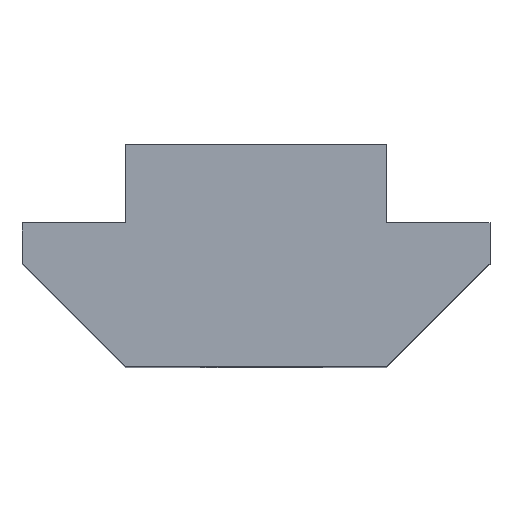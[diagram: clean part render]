
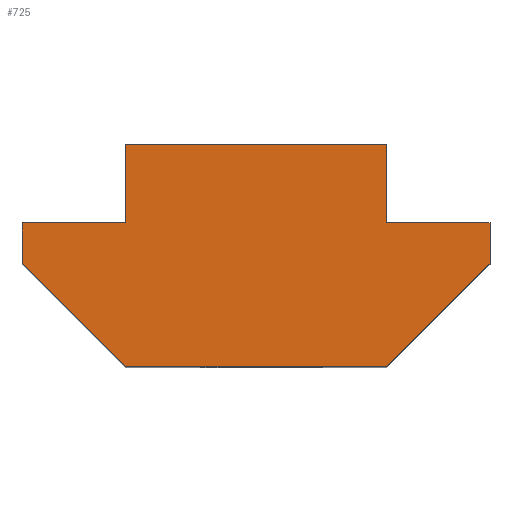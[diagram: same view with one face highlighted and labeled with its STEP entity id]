
A CAD part, top view. The second image highlights one B-rep face of the part: STEP entity #725.
In plain terms, the highlighted planar face has unit normal (0, 0, 1).
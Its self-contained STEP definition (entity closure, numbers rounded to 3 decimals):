
#27=PLANE('',#780);
#67=FACE_OUTER_BOUND('',#107,.T.);
#107=EDGE_LOOP('',(#645,#646,#647,#648,#649,#650,#651,#652,#653,#654));
#189=LINE('',#2672,#241);
#192=LINE('',#2679,#244);
#196=LINE('',#2686,#248);
#199=LINE('',#2692,#251);
#202=LINE('',#2698,#254);
#205=LINE('',#2704,#257);
#208=LINE('',#2710,#260);
#211=LINE('',#2716,#263);
#214=LINE('',#2722,#266);
#216=LINE('',#2725,#268);
#241=VECTOR('',#866,1000.);
#244=VECTOR('',#873,1000.);
#248=VECTOR('',#879,1000.);
#251=VECTOR('',#884,1000.);
#254=VECTOR('',#889,1000.);
#257=VECTOR('',#894,1000.);
#260=VECTOR('',#899,1000.);
#263=VECTOR('',#904,1000.);
#266=VECTOR('',#909,1000.);
#268=VECTOR('',#913,1000.);
#323=VERTEX_POINT('',#2669);
#324=VERTEX_POINT('',#2671);
#326=VERTEX_POINT('',#2678);
#328=VERTEX_POINT('',#2684);
#330=VERTEX_POINT('',#2690);
#332=VERTEX_POINT('',#2696);
#334=VERTEX_POINT('',#2702);
#336=VERTEX_POINT('',#2708);
#338=VERTEX_POINT('',#2714);
#340=VERTEX_POINT('',#2720);
#421=EDGE_CURVE('',#324,#323,#189,.T.);
#424=EDGE_CURVE('',#326,#324,#192,.T.);
#428=EDGE_CURVE('',#323,#328,#196,.T.);
#431=EDGE_CURVE('',#328,#330,#199,.T.);
#434=EDGE_CURVE('',#330,#332,#202,.T.);
#437=EDGE_CURVE('',#332,#334,#205,.T.);
#440=EDGE_CURVE('',#334,#336,#208,.T.);
#443=EDGE_CURVE('',#336,#338,#211,.T.);
#446=EDGE_CURVE('',#338,#340,#214,.T.);
#448=EDGE_CURVE('',#340,#326,#216,.T.);
#645=ORIENTED_EDGE('',*,*,#424,.T.);
#646=ORIENTED_EDGE('',*,*,#421,.T.);
#647=ORIENTED_EDGE('',*,*,#428,.T.);
#648=ORIENTED_EDGE('',*,*,#431,.T.);
#649=ORIENTED_EDGE('',*,*,#434,.T.);
#650=ORIENTED_EDGE('',*,*,#437,.T.);
#651=ORIENTED_EDGE('',*,*,#440,.T.);
#652=ORIENTED_EDGE('',*,*,#443,.T.);
#653=ORIENTED_EDGE('',*,*,#446,.T.);
#654=ORIENTED_EDGE('',*,*,#448,.T.);
#725=ADVANCED_FACE('',(#67),#27,.T.);
#780=AXIS2_PLACEMENT_3D('',#2726,#914,#915);
#866=DIRECTION('',(1.,0.,0.));
#873=DIRECTION('',(0.707,-0.707,0.));
#879=DIRECTION('',(0.707,0.707,0.));
#884=DIRECTION('',(0.,1.,0.));
#889=DIRECTION('',(-1.,0.,0.));
#894=DIRECTION('',(0.,1.,0.));
#899=DIRECTION('',(-1.,0.,0.));
#904=DIRECTION('',(0.,-1.,0.));
#909=DIRECTION('',(-1.,0.,0.));
#913=DIRECTION('',(0.,-1.,0.));
#914=DIRECTION('center_axis',(0.,0.,1.));
#915=DIRECTION('ref_axis',(1.,0.,0.));
#2669=CARTESIAN_POINT('',(5.,0.,9.));
#2671=CARTESIAN_POINT('',(-5.,0.,9.));
#2672=CARTESIAN_POINT('',(-5.,0.,9.));
#2678=CARTESIAN_POINT('',(-8.95,3.95,9.));
#2679=CARTESIAN_POINT('',(-8.95,3.95,9.));
#2684=CARTESIAN_POINT('',(8.95,3.95,9.));
#2686=CARTESIAN_POINT('',(5.,0.,9.));
#2690=CARTESIAN_POINT('',(8.95,5.5,9.));
#2692=CARTESIAN_POINT('',(8.95,3.95,9.));
#2696=CARTESIAN_POINT('',(5.,5.5,9.));
#2698=CARTESIAN_POINT('',(8.95,5.5,9.));
#2702=CARTESIAN_POINT('',(5.,8.5,9.));
#2704=CARTESIAN_POINT('',(5.,5.5,9.));
#2708=CARTESIAN_POINT('',(-5.,8.5,9.));
#2710=CARTESIAN_POINT('',(5.,8.5,9.));
#2714=CARTESIAN_POINT('',(-5.,5.5,9.));
#2716=CARTESIAN_POINT('',(-5.,8.5,9.));
#2720=CARTESIAN_POINT('',(-8.95,5.5,9.));
#2722=CARTESIAN_POINT('',(-5.,5.5,9.));
#2725=CARTESIAN_POINT('',(-8.95,5.5,9.));
#2726=CARTESIAN_POINT('Origin',(0.,0.,9.));
